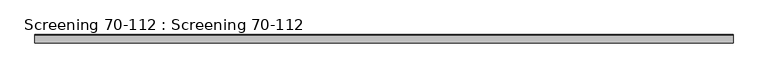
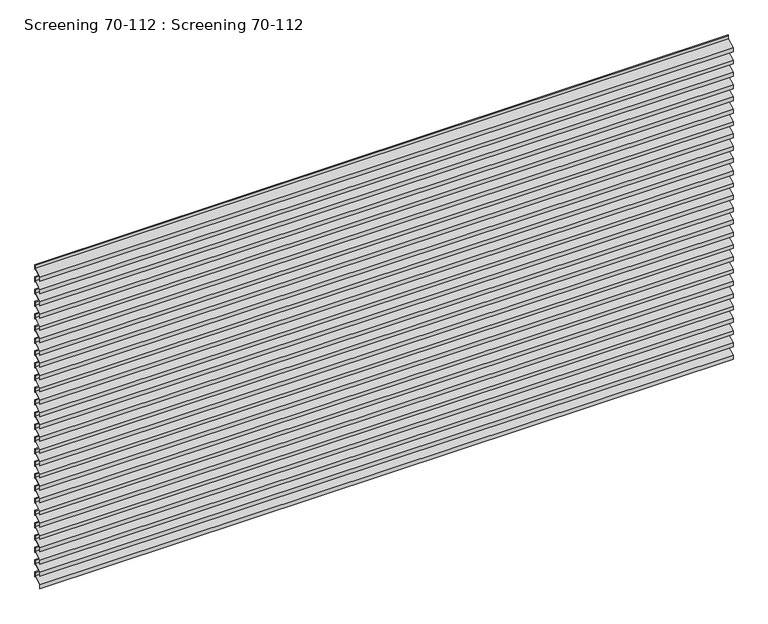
"""IFC4 building model written with IfcOpenShell, lengths in millimetres: plate geometry, Screening 70-112 : Screening 70-112."""

from ifc_helpers import new_model, si_unit, point, frame, frame_2d, origin, place, context, project, spatial, polyline, circle_curve, trimmed, segment, composite_curve, outline, extrude, source, transform, mapped, element, save


def screening_70_112_screening_70_112_4b826975(model_context):
    return source(origin(), model_context, "Body", "SweptSolid", [
        extrude(outline(composite_curve([segment(polyline([(-73.0, 2824.6), (-73.0, 2860.0291809)]), True, "CONTINUOUS"), segment(trimmed(circle_curve(frame_2d((-534.237547, 3738.5902569)), 992.2749816), [point((-73.0, 2860.0291809))], [point((-4.0, 2899.8663555))], True, "CARTESIAN"), True, "CONTINUOUS"), segment(polyline([(-4.0, 2899.8663555), (-4.0, 2930.509614), (0.0, 2933.6725089), (0.0, 2889.1482493), (-17.4871094, 2889.1482493)]), True, "CONTINUOUS"), segment(trimmed(circle_curve(frame_2d((-534.237547, 3738.5902569)), 994.2749816), [point((-17.4871094, 2889.1482493))], [point((-71.0, 2858.8211315))], False, "CARTESIAN"), True, "CONTINUOUS"), segment(polyline([(-71.0, 2858.8211315), (-71.0, 2824.6), (-73.0, 2824.6)]), True, "CONTINUOUS")], self_intersect=False)), frame((-3000.0, 0.0, 0.0), z_axis=(1.0, 0.0, 0.0), x_axis=(0.0, 1.0, 0.0)), (0.0, 0.0, 1.0), 6000.0),
        extrude(outline(composite_curve([segment(polyline([(-73.0, 2712.1), (-73.0, 2747.5291809)]), True, "CONTINUOUS"), segment(trimmed(circle_curve(frame_2d((-534.237547, 3626.0902569)), 992.2749816), [point((-73.0, 2747.5291809))], [point((-4.0, 2787.3663555))], True, "CARTESIAN"), True, "CONTINUOUS"), segment(polyline([(-4.0, 2787.3663555), (-4.0, 2818.009614), (0.0, 2821.1725089), (0.0, 2776.6482493), (-17.4871094, 2776.6482493)]), True, "CONTINUOUS"), segment(trimmed(circle_curve(frame_2d((-534.237547, 3626.0902569)), 994.2749816), [point((-17.4871094, 2776.6482493))], [point((-71.0, 2746.3211315))], False, "CARTESIAN"), True, "CONTINUOUS"), segment(polyline([(-71.0, 2746.3211315), (-71.0, 2712.1), (-73.0, 2712.1)]), True, "CONTINUOUS")], self_intersect=False)), frame((-3000.0, 0.0, 0.0), z_axis=(1.0, 0.0, 0.0), x_axis=(0.0, 1.0, 0.0)), (0.0, 0.0, 1.0), 6000.0),
        extrude(outline(composite_curve([segment(polyline([(-73.0, 2599.6), (-73.0, 2635.0291809)]), True, "CONTINUOUS"), segment(trimmed(circle_curve(frame_2d((-534.237547, 3513.5902569)), 992.2749816), [point((-73.0, 2635.0291809))], [point((-4.0, 2674.8663555))], True, "CARTESIAN"), True, "CONTINUOUS"), segment(polyline([(-4.0, 2674.8663555), (-4.0, 2705.509614), (0.0, 2708.6725089), (0.0, 2664.1482493), (-17.4871094, 2664.1482493)]), True, "CONTINUOUS"), segment(trimmed(circle_curve(frame_2d((-534.237547, 3513.5902569)), 994.2749816), [point((-17.4871094, 2664.1482493))], [point((-71.0, 2633.8211315))], False, "CARTESIAN"), True, "CONTINUOUS"), segment(polyline([(-71.0, 2633.8211315), (-71.0, 2599.6), (-73.0, 2599.6)]), True, "CONTINUOUS")], self_intersect=False)), frame((-3000.0, 0.0, 0.0), z_axis=(1.0, 0.0, 0.0), x_axis=(0.0, 1.0, 0.0)), (0.0, 0.0, 1.0), 6000.0),
        extrude(outline(composite_curve([segment(polyline([(-73.0, 2487.1), (-73.0, 2522.5291809)]), True, "CONTINUOUS"), segment(trimmed(circle_curve(frame_2d((-534.237547, 3401.0902569)), 992.2749816), [point((-73.0, 2522.5291809))], [point((-4.0, 2562.3663555))], True, "CARTESIAN"), True, "CONTINUOUS"), segment(polyline([(-4.0, 2562.3663555), (-4.0, 2593.009614), (0.0, 2596.1725089), (0.0, 2551.6482493), (-17.4871094, 2551.6482493)]), True, "CONTINUOUS"), segment(trimmed(circle_curve(frame_2d((-534.237547, 3401.0902569)), 994.2749816), [point((-17.4871094, 2551.6482493))], [point((-71.0, 2521.3211315))], False, "CARTESIAN"), True, "CONTINUOUS"), segment(polyline([(-71.0, 2521.3211315), (-71.0, 2487.1), (-73.0, 2487.1)]), True, "CONTINUOUS")], self_intersect=False)), frame((-3000.0, 0.0, 0.0), z_axis=(1.0, 0.0, 0.0), x_axis=(0.0, 1.0, 0.0)), (0.0, 0.0, 1.0), 6000.0),
        extrude(outline(composite_curve([segment(polyline([(-73.0, 2374.6), (-73.0, 2410.0291809)]), True, "CONTINUOUS"), segment(trimmed(circle_curve(frame_2d((-534.237547, 3288.5902569)), 992.2749816), [point((-73.0, 2410.0291809))], [point((-4.0, 2449.8663555))], True, "CARTESIAN"), True, "CONTINUOUS"), segment(polyline([(-4.0, 2449.8663555), (-4.0, 2480.509614), (0.0, 2483.6725089), (0.0, 2439.1482493), (-17.4871094, 2439.1482493)]), True, "CONTINUOUS"), segment(trimmed(circle_curve(frame_2d((-534.237547, 3288.5902569)), 994.2749816), [point((-17.4871094, 2439.1482493))], [point((-71.0, 2408.8211315))], False, "CARTESIAN"), True, "CONTINUOUS"), segment(polyline([(-71.0, 2408.8211315), (-71.0, 2374.6), (-73.0, 2374.6)]), True, "CONTINUOUS")], self_intersect=False)), frame((-3000.0, 0.0, 0.0), z_axis=(1.0, 0.0, 0.0), x_axis=(0.0, 1.0, 0.0)), (0.0, 0.0, 1.0), 6000.0),
        extrude(outline(composite_curve([segment(polyline([(-73.0, 2262.1), (-73.0, 2297.5291809)]), True, "CONTINUOUS"), segment(trimmed(circle_curve(frame_2d((-534.237547, 3176.0902569)), 992.2749816), [point((-73.0, 2297.5291809))], [point((-4.0, 2337.3663555))], True, "CARTESIAN"), True, "CONTINUOUS"), segment(polyline([(-4.0, 2337.3663555), (-4.0, 2368.009614), (0.0, 2371.1725089), (0.0, 2326.6482493), (-17.4871094, 2326.6482493)]), True, "CONTINUOUS"), segment(trimmed(circle_curve(frame_2d((-534.237547, 3176.0902569)), 994.2749816), [point((-17.4871094, 2326.6482493))], [point((-71.0, 2296.3211315))], False, "CARTESIAN"), True, "CONTINUOUS"), segment(polyline([(-71.0, 2296.3211315), (-71.0, 2262.1), (-73.0, 2262.1)]), True, "CONTINUOUS")], self_intersect=False)), frame((-3000.0, 0.0, 0.0), z_axis=(1.0, 0.0, 0.0), x_axis=(0.0, 1.0, 0.0)), (0.0, 0.0, 1.0), 6000.0),
        extrude(outline(composite_curve([segment(polyline([(-73.0, 2149.6), (-73.0, 2185.0291809)]), True, "CONTINUOUS"), segment(trimmed(circle_curve(frame_2d((-534.237547, 3063.5902569)), 992.2749816), [point((-73.0, 2185.0291809))], [point((-4.0, 2224.8663555))], True, "CARTESIAN"), True, "CONTINUOUS"), segment(polyline([(-4.0, 2224.8663555), (-4.0, 2255.509614), (0.0, 2258.6725089), (0.0, 2214.1482493), (-17.4871094, 2214.1482493)]), True, "CONTINUOUS"), segment(trimmed(circle_curve(frame_2d((-534.237547, 3063.5902569)), 994.2749816), [point((-17.4871094, 2214.1482493))], [point((-71.0, 2183.8211315))], False, "CARTESIAN"), True, "CONTINUOUS"), segment(polyline([(-71.0, 2183.8211315), (-71.0, 2149.6), (-73.0, 2149.6)]), True, "CONTINUOUS")], self_intersect=False)), frame((-3000.0, 0.0, 0.0), z_axis=(1.0, 0.0, 0.0), x_axis=(0.0, 1.0, 0.0)), (0.0, 0.0, 1.0), 6000.0),
        extrude(outline(composite_curve([segment(polyline([(-73.0, 2037.1), (-73.0, 2072.5291809)]), True, "CONTINUOUS"), segment(trimmed(circle_curve(frame_2d((-534.237547, 2951.0902569)), 992.2749816), [point((-73.0, 2072.5291809))], [point((-4.0, 2112.3663555))], True, "CARTESIAN"), True, "CONTINUOUS"), segment(polyline([(-4.0, 2112.3663555), (-4.0, 2143.009614), (0.0, 2146.1725089), (0.0, 2101.6482493), (-17.4871094, 2101.6482493)]), True, "CONTINUOUS"), segment(trimmed(circle_curve(frame_2d((-534.237547, 2951.0902569)), 994.2749816), [point((-17.4871094, 2101.6482493))], [point((-71.0, 2071.3211315))], False, "CARTESIAN"), True, "CONTINUOUS"), segment(polyline([(-71.0, 2071.3211315), (-71.0, 2037.1), (-73.0, 2037.1)]), True, "CONTINUOUS")], self_intersect=False)), frame((-3000.0, 0.0, 0.0), z_axis=(1.0, 0.0, 0.0), x_axis=(0.0, 1.0, 0.0)), (0.0, 0.0, 1.0), 6000.0),
        extrude(outline(composite_curve([segment(polyline([(-73.0, 1924.6), (-73.0, 1960.0291809)]), True, "CONTINUOUS"), segment(trimmed(circle_curve(frame_2d((-534.237547, 2838.5902569)), 992.2749816), [point((-73.0, 1960.0291809))], [point((-4.0, 1999.8663555))], True, "CARTESIAN"), True, "CONTINUOUS"), segment(polyline([(-4.0, 1999.8663555), (-4.0, 2030.509614), (0.0, 2033.6725089), (0.0, 1989.1482493), (-17.4871094, 1989.1482493)]), True, "CONTINUOUS"), segment(trimmed(circle_curve(frame_2d((-534.237547, 2838.5902569)), 994.2749816), [point((-17.4871094, 1989.1482493))], [point((-71.0, 1958.8211315))], False, "CARTESIAN"), True, "CONTINUOUS"), segment(polyline([(-71.0, 1958.8211315), (-71.0, 1924.6), (-73.0, 1924.6)]), True, "CONTINUOUS")], self_intersect=False)), frame((-3000.0, 0.0, 0.0), z_axis=(1.0, 0.0, 0.0), x_axis=(0.0, 1.0, 0.0)), (0.0, 0.0, 1.0), 6000.0),
        extrude(outline(composite_curve([segment(polyline([(-73.0, 1812.1), (-73.0, 1847.5291809)]), True, "CONTINUOUS"), segment(trimmed(circle_curve(frame_2d((-534.237547, 2726.0902569)), 992.2749816), [point((-73.0, 1847.5291809))], [point((-4.0, 1887.3663555))], True, "CARTESIAN"), True, "CONTINUOUS"), segment(polyline([(-4.0, 1887.3663555), (-4.0, 1918.009614), (0.0, 1921.1725089), (0.0, 1876.6482493), (-17.4871094, 1876.6482493)]), True, "CONTINUOUS"), segment(trimmed(circle_curve(frame_2d((-534.237547, 2726.0902569)), 994.2749816), [point((-17.4871094, 1876.6482493))], [point((-71.0, 1846.3211315))], False, "CARTESIAN"), True, "CONTINUOUS"), segment(polyline([(-71.0, 1846.3211315), (-71.0, 1812.1), (-73.0, 1812.1)]), True, "CONTINUOUS")], self_intersect=False)), frame((-3000.0, 0.0, 0.0), z_axis=(1.0, 0.0, 0.0), x_axis=(0.0, 1.0, 0.0)), (0.0, 0.0, 1.0), 6000.0),
        extrude(outline(composite_curve([segment(polyline([(-73.0, 1699.6), (-73.0, 1735.0291809)]), True, "CONTINUOUS"), segment(trimmed(circle_curve(frame_2d((-534.237547, 2613.5902569)), 992.2749816), [point((-73.0, 1735.0291809))], [point((-4.0, 1774.8663555))], True, "CARTESIAN"), True, "CONTINUOUS"), segment(polyline([(-4.0, 1774.8663555), (-4.0, 1805.509614), (0.0, 1808.6725089), (0.0, 1764.1482493), (-17.4871094, 1764.1482493)]), True, "CONTINUOUS"), segment(trimmed(circle_curve(frame_2d((-534.237547, 2613.5902569)), 994.2749816), [point((-17.4871094, 1764.1482493))], [point((-71.0, 1733.8211315))], False, "CARTESIAN"), True, "CONTINUOUS"), segment(polyline([(-71.0, 1733.8211315), (-71.0, 1699.6), (-73.0, 1699.6)]), True, "CONTINUOUS")], self_intersect=False)), frame((-3000.0, 0.0, 0.0), z_axis=(1.0, 0.0, 0.0), x_axis=(0.0, 1.0, 0.0)), (0.0, 0.0, 1.0), 6000.0),
        extrude(outline(composite_curve([segment(polyline([(-73.0, 1587.1), (-73.0, 1622.5291809)]), True, "CONTINUOUS"), segment(trimmed(circle_curve(frame_2d((-534.237547, 2501.0902569)), 992.2749816), [point((-73.0, 1622.5291809))], [point((-4.0, 1662.3663555))], True, "CARTESIAN"), True, "CONTINUOUS"), segment(polyline([(-4.0, 1662.3663555), (-4.0, 1693.009614), (0.0, 1696.1725089), (0.0, 1651.6482493), (-17.4871094, 1651.6482493)]), True, "CONTINUOUS"), segment(trimmed(circle_curve(frame_2d((-534.237547, 2501.0902569)), 994.2749816), [point((-17.4871094, 1651.6482493))], [point((-71.0, 1621.3211315))], False, "CARTESIAN"), True, "CONTINUOUS"), segment(polyline([(-71.0, 1621.3211315), (-71.0, 1587.1), (-73.0, 1587.1)]), True, "CONTINUOUS")], self_intersect=False)), frame((-3000.0, 0.0, 0.0), z_axis=(1.0, 0.0, 0.0), x_axis=(0.0, 1.0, 0.0)), (0.0, 0.0, 1.0), 6000.0),
        extrude(outline(composite_curve([segment(polyline([(-73.0, 1474.6), (-73.0, 1510.0291809)]), True, "CONTINUOUS"), segment(trimmed(circle_curve(frame_2d((-534.237547, 2388.5902569)), 992.2749816), [point((-73.0, 1510.0291809))], [point((-4.0, 1549.8663555))], True, "CARTESIAN"), True, "CONTINUOUS"), segment(polyline([(-4.0, 1549.8663555), (-4.0, 1580.509614), (0.0, 1583.6725089), (0.0, 1539.1482493), (-17.4871094, 1539.1482493)]), True, "CONTINUOUS"), segment(trimmed(circle_curve(frame_2d((-534.237547, 2388.5902569)), 994.2749816), [point((-17.4871094, 1539.1482493))], [point((-71.0, 1508.8211315))], False, "CARTESIAN"), True, "CONTINUOUS"), segment(polyline([(-71.0, 1508.8211315), (-71.0, 1474.6), (-73.0, 1474.6)]), True, "CONTINUOUS")], self_intersect=False)), frame((-3000.0, 0.0, 0.0), z_axis=(1.0, 0.0, 0.0), x_axis=(0.0, 1.0, 0.0)), (0.0, 0.0, 1.0), 6000.0),
        extrude(outline(composite_curve([segment(polyline([(-73.0, 1362.1), (-73.0, 1397.5291809)]), True, "CONTINUOUS"), segment(trimmed(circle_curve(frame_2d((-534.237547, 2276.0902569)), 992.2749816), [point((-73.0, 1397.5291809))], [point((-4.0, 1437.3663555))], True, "CARTESIAN"), True, "CONTINUOUS"), segment(polyline([(-4.0, 1437.3663555), (-4.0, 1468.009614), (0.0, 1471.1725089), (0.0, 1426.6482493), (-17.4871094, 1426.6482493)]), True, "CONTINUOUS"), segment(trimmed(circle_curve(frame_2d((-534.237547, 2276.0902569)), 994.2749816), [point((-17.4871094, 1426.6482493))], [point((-71.0, 1396.3211315))], False, "CARTESIAN"), True, "CONTINUOUS"), segment(polyline([(-71.0, 1396.3211315), (-71.0, 1362.1), (-73.0, 1362.1)]), True, "CONTINUOUS")], self_intersect=False)), frame((-3000.0, 0.0, 0.0), z_axis=(1.0, 0.0, 0.0), x_axis=(0.0, 1.0, 0.0)), (0.0, 0.0, 1.0), 6000.0),
        extrude(outline(composite_curve([segment(polyline([(-73.0, 1249.6), (-73.0, 1285.0291809)]), True, "CONTINUOUS"), segment(trimmed(circle_curve(frame_2d((-534.237547, 2163.5902569)), 992.2749816), [point((-73.0, 1285.0291809))], [point((-4.0, 1324.8663555))], True, "CARTESIAN"), True, "CONTINUOUS"), segment(polyline([(-4.0, 1324.8663555), (-4.0, 1355.509614), (0.0, 1358.6725089), (0.0, 1314.1482493), (-17.4871094, 1314.1482493)]), True, "CONTINUOUS"), segment(trimmed(circle_curve(frame_2d((-534.237547, 2163.5902569)), 994.2749816), [point((-17.4871094, 1314.1482493))], [point((-71.0, 1283.8211315))], False, "CARTESIAN"), True, "CONTINUOUS"), segment(polyline([(-71.0, 1283.8211315), (-71.0, 1249.6), (-73.0, 1249.6)]), True, "CONTINUOUS")], self_intersect=False)), frame((-3000.0, 0.0, 0.0), z_axis=(1.0, 0.0, 0.0), x_axis=(0.0, 1.0, 0.0)), (0.0, 0.0, 1.0), 6000.0),
        extrude(outline(composite_curve([segment(polyline([(-73.0, 1137.1), (-73.0, 1172.5291809)]), True, "CONTINUOUS"), segment(trimmed(circle_curve(frame_2d((-534.237547, 2051.0902569)), 992.2749816), [point((-73.0, 1172.5291809))], [point((-4.0, 1212.3663555))], True, "CARTESIAN"), True, "CONTINUOUS"), segment(polyline([(-4.0, 1212.3663555), (-4.0, 1243.009614), (0.0, 1246.1725089), (0.0, 1201.6482493), (-17.4871094, 1201.6482493)]), True, "CONTINUOUS"), segment(trimmed(circle_curve(frame_2d((-534.237547, 2051.0902569)), 994.2749816), [point((-17.4871094, 1201.6482493))], [point((-71.0, 1171.3211315))], False, "CARTESIAN"), True, "CONTINUOUS"), segment(polyline([(-71.0, 1171.3211315), (-71.0, 1137.1), (-73.0, 1137.1)]), True, "CONTINUOUS")], self_intersect=False)), frame((-3000.0, 0.0, 0.0), z_axis=(1.0, 0.0, 0.0), x_axis=(0.0, 1.0, 0.0)), (0.0, 0.0, 1.0), 6000.0),
        extrude(outline(composite_curve([segment(polyline([(-73.0, 1024.6), (-73.0, 1060.0291809)]), True, "CONTINUOUS"), segment(trimmed(circle_curve(frame_2d((-534.237547, 1938.5902569)), 992.2749816), [point((-73.0, 1060.0291809))], [point((-4.0, 1099.8663555))], True, "CARTESIAN"), True, "CONTINUOUS"), segment(polyline([(-4.0, 1099.8663555), (-4.0, 1130.509614), (0.0, 1133.6725089), (0.0, 1089.1482493), (-17.4871094, 1089.1482493)]), True, "CONTINUOUS"), segment(trimmed(circle_curve(frame_2d((-534.237547, 1938.5902569)), 994.2749816), [point((-17.4871094, 1089.1482493))], [point((-71.0, 1058.8211315))], False, "CARTESIAN"), True, "CONTINUOUS"), segment(polyline([(-71.0, 1058.8211315), (-71.0, 1024.6), (-73.0, 1024.6)]), True, "CONTINUOUS")], self_intersect=False)), frame((-3000.0, 0.0, 0.0), z_axis=(1.0, 0.0, 0.0), x_axis=(0.0, 1.0, 0.0)), (0.0, 0.0, 1.0), 6000.0),
        extrude(outline(composite_curve([segment(polyline([(-73.0, 912.1), (-73.0, 947.5291809)]), True, "CONTINUOUS"), segment(trimmed(circle_curve(frame_2d((-534.237547, 1826.0902569)), 992.2749816), [point((-73.0, 947.5291809))], [point((-4.0, 987.3663555))], True, "CARTESIAN"), True, "CONTINUOUS"), segment(polyline([(-4.0, 987.3663555), (-4.0, 1018.009614), (0.0, 1021.1725089), (0.0, 976.6482493), (-17.4871094, 976.6482493)]), True, "CONTINUOUS"), segment(trimmed(circle_curve(frame_2d((-534.237547, 1826.0902569)), 994.2749816), [point((-17.4871094, 976.6482493))], [point((-71.0, 946.3211315))], False, "CARTESIAN"), True, "CONTINUOUS"), segment(polyline([(-71.0, 946.3211315), (-71.0, 912.1), (-73.0, 912.1)]), True, "CONTINUOUS")], self_intersect=False)), frame((-3000.0, 0.0, 0.0), z_axis=(1.0, 0.0, 0.0), x_axis=(0.0, 1.0, 0.0)), (0.0, 0.0, 1.0), 6000.0),
        extrude(outline(composite_curve([segment(polyline([(-73.0, 799.6), (-73.0, 835.0291809)]), True, "CONTINUOUS"), segment(trimmed(circle_curve(frame_2d((-534.237547, 1713.5902569)), 992.2749816), [point((-73.0, 835.0291809))], [point((-4.0, 874.8663555))], True, "CARTESIAN"), True, "CONTINUOUS"), segment(polyline([(-4.0, 874.8663555), (-4.0, 905.509614), (0.0, 908.6725089), (0.0, 864.1482493), (-17.4871094, 864.1482493)]), True, "CONTINUOUS"), segment(trimmed(circle_curve(frame_2d((-534.237547, 1713.5902569)), 994.2749816), [point((-17.4871094, 864.1482493))], [point((-71.0, 833.8211315))], False, "CARTESIAN"), True, "CONTINUOUS"), segment(polyline([(-71.0, 833.8211315), (-71.0, 799.6), (-73.0, 799.6)]), True, "CONTINUOUS")], self_intersect=False)), frame((-3000.0, 0.0, 0.0), z_axis=(1.0, 0.0, 0.0), x_axis=(0.0, 1.0, 0.0)), (0.0, 0.0, 1.0), 6000.0),
        extrude(outline(composite_curve([segment(polyline([(-73.0, 687.1), (-73.0, 722.5291809)]), True, "CONTINUOUS"), segment(trimmed(circle_curve(frame_2d((-534.237547, 1601.0902569)), 992.2749816), [point((-73.0, 722.5291809))], [point((-4.0, 762.3663555))], True, "CARTESIAN"), True, "CONTINUOUS"), segment(polyline([(-4.0, 762.3663555), (-4.0, 793.009614), (0.0, 796.1725089), (0.0, 751.6482493), (-17.4871094, 751.6482493)]), True, "CONTINUOUS"), segment(trimmed(circle_curve(frame_2d((-534.237547, 1601.0902569)), 994.2749816), [point((-17.4871094, 751.6482493))], [point((-71.0, 721.3211315))], False, "CARTESIAN"), True, "CONTINUOUS"), segment(polyline([(-71.0, 721.3211315), (-71.0, 687.1), (-73.0, 687.1)]), True, "CONTINUOUS")], self_intersect=False)), frame((-3000.0, 0.0, 0.0), z_axis=(1.0, 0.0, 0.0), x_axis=(0.0, 1.0, 0.0)), (0.0, 0.0, 1.0), 6000.0),
        extrude(outline(composite_curve([segment(polyline([(-73.0, 574.6), (-73.0, 610.0291809)]), True, "CONTINUOUS"), segment(trimmed(circle_curve(frame_2d((-534.237547, 1488.5902569)), 992.2749816), [point((-73.0, 610.0291809))], [point((-4.0, 649.8663555))], True, "CARTESIAN"), True, "CONTINUOUS"), segment(polyline([(-4.0, 649.8663555), (-4.0, 680.509614), (0.0, 683.6725089), (0.0, 639.1482493), (-17.4871094, 639.1482493)]), True, "CONTINUOUS"), segment(trimmed(circle_curve(frame_2d((-534.237547, 1488.5902569)), 994.2749816), [point((-17.4871094, 639.1482493))], [point((-71.0, 608.8211315))], False, "CARTESIAN"), True, "CONTINUOUS"), segment(polyline([(-71.0, 608.8211315), (-71.0, 574.6), (-73.0, 574.6)]), True, "CONTINUOUS")], self_intersect=False)), frame((-3000.0, 0.0, 0.0), z_axis=(1.0, 0.0, 0.0), x_axis=(0.0, 1.0, 0.0)), (0.0, 0.0, 1.0), 6000.0),
        extrude(outline(composite_curve([segment(polyline([(-73.0, 462.1), (-73.0, 497.5291809)]), True, "CONTINUOUS"), segment(trimmed(circle_curve(frame_2d((-534.237547, 1376.0902569)), 992.2749816), [point((-73.0, 497.5291809))], [point((-4.0, 537.3663555))], True, "CARTESIAN"), True, "CONTINUOUS"), segment(polyline([(-4.0, 537.3663555), (-4.0, 568.009614), (0.0, 571.1725089), (0.0, 526.6482493), (-17.4871094, 526.6482493)]), True, "CONTINUOUS"), segment(trimmed(circle_curve(frame_2d((-534.237547, 1376.0902569)), 994.2749816), [point((-17.4871094, 526.6482493))], [point((-71.0, 496.3211315))], False, "CARTESIAN"), True, "CONTINUOUS"), segment(polyline([(-71.0, 496.3211315), (-71.0, 462.1), (-73.0, 462.1)]), True, "CONTINUOUS")], self_intersect=False)), frame((-3000.0, 0.0, 0.0), z_axis=(1.0, 0.0, 0.0), x_axis=(0.0, 1.0, 0.0)), (0.0, 0.0, 1.0), 6000.0),
        extrude(outline(composite_curve([segment(polyline([(-73.0, 349.6), (-73.0, 385.0291809)]), True, "CONTINUOUS"), segment(trimmed(circle_curve(frame_2d((-534.237547, 1263.5902569)), 992.2749816), [point((-73.0, 385.0291809))], [point((-4.0, 424.8663555))], True, "CARTESIAN"), True, "CONTINUOUS"), segment(polyline([(-4.0, 424.8663555), (-4.0, 455.509614), (0.0, 458.6725089), (0.0, 414.1482493), (-17.4871094, 414.1482493)]), True, "CONTINUOUS"), segment(trimmed(circle_curve(frame_2d((-534.237547, 1263.5902569)), 994.2749816), [point((-17.4871094, 414.1482493))], [point((-71.0, 383.8211315))], False, "CARTESIAN"), True, "CONTINUOUS"), segment(polyline([(-71.0, 383.8211315), (-71.0, 349.6), (-73.0, 349.6)]), True, "CONTINUOUS")], self_intersect=False)), frame((-3000.0, 0.0, 0.0), z_axis=(1.0, 0.0, 0.0), x_axis=(0.0, 1.0, 0.0)), (0.0, 0.0, 1.0), 6000.0),
        extrude(outline(composite_curve([segment(polyline([(-73.0, 237.1), (-73.0, 272.5291809)]), True, "CONTINUOUS"), segment(trimmed(circle_curve(frame_2d((-534.237547, 1151.0902569)), 992.2749816), [point((-73.0, 272.5291809))], [point((-4.0, 312.3663555))], True, "CARTESIAN"), True, "CONTINUOUS"), segment(polyline([(-4.0, 312.3663555), (-4.0, 343.009614), (0.0, 346.1725089), (0.0, 301.6482493), (-17.4871094, 301.6482493)]), True, "CONTINUOUS"), segment(trimmed(circle_curve(frame_2d((-534.237547, 1151.0902569)), 994.2749816), [point((-17.4871094, 301.6482493))], [point((-71.0, 271.3211315))], False, "CARTESIAN"), True, "CONTINUOUS"), segment(polyline([(-71.0, 271.3211315), (-71.0, 237.1), (-73.0, 237.1)]), True, "CONTINUOUS")], self_intersect=False)), frame((-3000.0, 0.0, 0.0), z_axis=(1.0, 0.0, 0.0), x_axis=(0.0, 1.0, 0.0)), (0.0, 0.0, 1.0), 6000.0),
        extrude(outline(composite_curve([segment(polyline([(-73.0, 124.6), (-73.0, 160.0291809)]), True, "CONTINUOUS"), segment(trimmed(circle_curve(frame_2d((-534.237547, 1038.5902569)), 992.2749816), [point((-73.0, 160.0291809))], [point((-4.0, 199.8663555))], True, "CARTESIAN"), True, "CONTINUOUS"), segment(polyline([(-4.0, 199.8663555), (-4.0, 230.509614), (0.0, 233.6725089), (0.0, 189.1482493), (-17.4871094, 189.1482493)]), True, "CONTINUOUS"), segment(trimmed(circle_curve(frame_2d((-534.237547, 1038.5902569)), 994.2749816), [point((-17.4871094, 189.1482493))], [point((-71.0, 158.8211315))], False, "CARTESIAN"), True, "CONTINUOUS"), segment(polyline([(-71.0, 158.8211315), (-71.0, 124.6), (-73.0, 124.6)]), True, "CONTINUOUS")], self_intersect=False)), frame((-3000.0, 0.0, 0.0), z_axis=(1.0, 0.0, 0.0), x_axis=(0.0, 1.0, 0.0)), (0.0, 0.0, 1.0), 6000.0),
        extrude(outline(composite_curve([segment(polyline([(-73.0, 12.1), (-73.0, 47.5291809)]), True, "CONTINUOUS"), segment(trimmed(circle_curve(frame_2d((-534.237547, 926.0902569)), 992.2749816), [point((-73.0, 47.5291809))], [point((-4.0, 87.3663555))], True, "CARTESIAN"), True, "CONTINUOUS"), segment(polyline([(-4.0, 87.3663555), (-4.0, 118.009614), (0.0, 121.1725089), (0.0, 76.6482493), (-17.4871094, 76.6482493)]), True, "CONTINUOUS"), segment(trimmed(circle_curve(frame_2d((-534.237547, 926.0902569)), 994.2749816), [point((-17.4871094, 76.6482493))], [point((-71.0, 46.3211315))], False, "CARTESIAN"), True, "CONTINUOUS"), segment(polyline([(-71.0, 46.3211315), (-71.0, 12.1), (-73.0, 12.1)]), True, "CONTINUOUS")], self_intersect=False)), frame((-3000.0, 0.0, 0.0), z_axis=(1.0, 0.0, 0.0), x_axis=(0.0, 1.0, 0.0)), (0.0, 0.0, 1.0), 6000.0),
    ])


if __name__ == "__main__":
    model = new_model("IFC4")
    model_context = context("Model", 3, world=origin())
    ifc_project = project(units=[si_unit("LENGTHUNIT", "METRE", prefix="MILLI")], contexts=[model_context])
    site = spatial("IfcSite", under=ifc_project)
    building = spatial("IfcBuilding", under=site)
    placement = place(None, origin())
    screening_70_112_screening_70_112_shape = screening_70_112_screening_70_112_4b826975(model_context)
    element("IfcPlate", 1, ObjectType="Screening 70-112 : Screening 70-112", at=placement, inside=building, context=model_context, shape_type="MappedRepresentation", body=[
        mapped(screening_70_112_screening_70_112_shape, transform((0.0, 0.0, 0.0), x_axis=(1.0, 0.0, 0.0), y_axis=(0.0, 1.0, 0.0), z_axis=(0.0, 0.0, 1.0))),
    ])
    save(model, "model.ifc")
